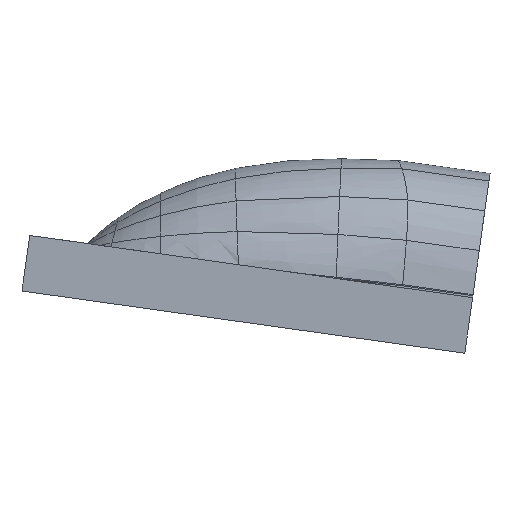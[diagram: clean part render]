
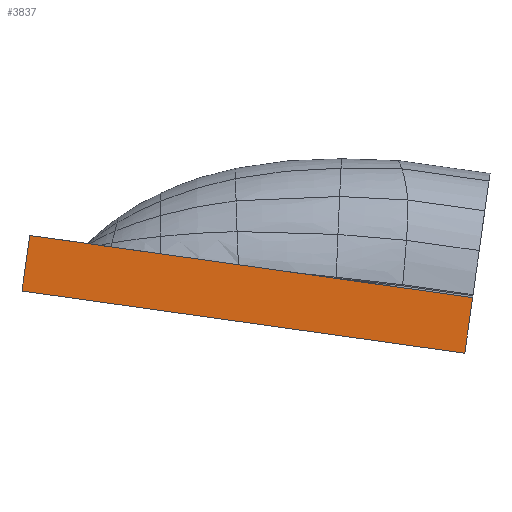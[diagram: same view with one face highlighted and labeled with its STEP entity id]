
A CAD part, left-side view. The second image highlights one B-rep face of the part: STEP entity #3837.
In plain terms, the highlighted planar face has unit normal (-1, 0, 0).
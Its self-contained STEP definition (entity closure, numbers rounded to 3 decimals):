
#216 = ORIENTED_EDGE ( 'NONE', *, *, #4666, .T. ) ;
#288 = CARTESIAN_POINT ( 'NONE',  ( -20.584, 18.836, -23.119 ) ) ;
#335 = CARTESIAN_POINT ( 'NONE',  ( -20.584, -1.336, -25.948 ) ) ;
#353 = CARTESIAN_POINT ( 'NONE',  ( -20.584, 20.87, -22.834 ) ) ;
#355 = VERTEX_POINT ( 'NONE', #4368 ) ;
#395 = CARTESIAN_POINT ( 'NONE',  ( -20.584, -11.225, -27.335 ) ) ;
#438 = VECTOR ( 'NONE', #1849, 1000. ) ;
#610 = EDGE_CURVE ( 'NONE', #4919, #2639, #2184, .T. ) ;
#712 = CARTESIAN_POINT ( 'NONE',  ( -20.584, 36.091, -20.699 ) ) ;
#763 = CARTESIAN_POINT ( 'NONE',  ( -20.584, 16.482, -23.449 ) ) ;
#778 = CARTESIAN_POINT ( 'NONE',  ( -20.584, -0.276, -25.799 ) ) ;
#818 = FACE_OUTER_BOUND ( 'NONE', #1372, .T. ) ;
#843 = CARTESIAN_POINT ( 'NONE',  ( -20.584, 34.083, -20.98 ) ) ;
#862 = CARTESIAN_POINT ( 'NONE',  ( -20.584, 8.926, -24.509 ) ) ;
#921 = CARTESIAN_POINT ( 'NONE',  ( -20.584, 15.306, -23.614 ) ) ;
#929 = CARTESIAN_POINT ( 'NONE',  ( -20.584, -10.391, -33.277 ) ) ;
#977 = LINE ( 'NONE', #929, #438 ) ;
#1106 = VECTOR ( 'NONE', #3293, 1000. ) ;
#1198 = CARTESIAN_POINT ( 'NONE',  ( -20.584, 30.067, -21.544 ) ) ;
#1300 = CARTESIAN_POINT ( 'NONE',  ( -20.584, 36.924, -26.64 ) ) ;
#1354 = CARTESIAN_POINT ( 'NONE',  ( -20.584, -7.074, -26.753 ) ) ;
#1372 = EDGE_LOOP ( 'NONE', ( #3326, #2331, #3690, #2835, #1730, #5160, #3417, #216 ) ) ;
#1381 = CARTESIAN_POINT ( 'NONE',  ( -20.584, -10.444, -27.225 ) ) ;
#1455 = CARTESIAN_POINT ( 'NONE',  ( -20.584, 1.845, -25.502 ) ) ;
#1644 = EDGE_CURVE ( 'NONE', #355, #4919, #4724, .T. ) ;
#1718 = VERTEX_POINT ( 'NONE', #2202 ) ;
#1730 = ORIENTED_EDGE ( 'NONE', *, *, #1644, .F. ) ;
#1752 = CARTESIAN_POINT ( 'NONE',  ( -20.584, 10.444, -24.296 ) ) ;
#1813 = CARTESIAN_POINT ( 'NONE',  ( -20.584, 11.254, -24.182 ) ) ;
#1824 = CARTESIAN_POINT ( 'NONE',  ( -20.584, -11.225, -27.335 ) ) ;
#1849 = DIRECTION ( 'NONE',  ( 0., -0.139, 0.99 ) ) ;
#2037 = VECTOR ( 'NONE', #2921, 1000. ) ;
#2100 = CARTESIAN_POINT ( 'NONE',  ( -20.584, 22.904, -22.548 ) ) ;
#2110 = CARTESIAN_POINT ( 'NONE',  ( -20.584, 25.292, -22.213 ) ) ;
#2144 = CARTESIAN_POINT ( 'NONE',  ( -20.584, -2.397, -26.097 ) ) ;
#2184 = B_SPLINE_CURVE_WITH_KNOTS ( 'NONE', 3,
 ( #4418, #5788, #2979, #353, #4801, #4351, #288, #3011, #763, #2570 ),
 .UNSPECIFIED., .F., .F.,
 ( 4, 3, 3, 4 ),
 ( 0., 0.002, 0.004, 0.008 ),
 .UNSPECIFIED. ) ;
#2202 = CARTESIAN_POINT ( 'NONE',  ( -20.584, -10.391, -33.277 ) ) ;
#2248 = CARTESIAN_POINT ( 'NONE',  ( -20.584, 7.409, -24.722 ) ) ;
#2274 = CARTESIAN_POINT ( 'NONE',  ( -20.584, 14.495, -23.728 ) ) ;
#2287 = CARTESIAN_POINT ( 'NONE',  ( -20.584, -9.663, -27.116 ) ) ;
#2331 = ORIENTED_EDGE ( 'NONE', *, *, #3504, .F. ) ;
#2386 = EDGE_CURVE ( 'NONE', #3078, #5203, #4604, .T. ) ;
#2550 = CARTESIAN_POINT ( 'NONE',  ( -20.584, 27.679, -21.879 ) ) ;
#2570 = CARTESIAN_POINT ( 'NONE',  ( -20.584, 15.306, -23.614 ) ) ;
#2584 = CARTESIAN_POINT ( 'NONE',  ( -20.584, 5.891, -24.935 ) ) ;
#2639 = VERTEX_POINT ( 'NONE', #5728 ) ;
#2692 = CARTESIAN_POINT ( 'NONE',  ( -20.584, 12.875, -23.955 ) ) ;
#2720 = CARTESIAN_POINT ( 'NONE',  ( -20.584, 12.064, -24.069 ) ) ;
#2762 = CARTESIAN_POINT ( 'NONE',  ( -20.584, 5.891, -24.935 ) ) ;
#2835 = ORIENTED_EDGE ( 'NONE', *, *, #610, .F. ) ;
#2919 = LINE ( 'NONE', #4235, #1106 ) ;
#2921 = DIRECTION ( 'NONE',  ( 0., 0.99, 0.139 ) ) ;
#2958 = B_SPLINE_CURVE_WITH_KNOTS ( 'NONE', 3,
 ( #2584, #3694, #5523, #4882, #1455, #3237, #778, #335, #2144, #3056 ),
 .UNSPECIFIED., .F., .F.,
 ( 4, 3, 3, 4 ),
 ( 0., 0.003, 0.006, 0.009 ),
 .UNSPECIFIED. ) ;
#2979 = CARTESIAN_POINT ( 'NONE',  ( -20.584, 21.548, -22.738 ) ) ;
#2997 = DIRECTION ( 'NONE',  ( 1., 0., 0. ) ) ;
#3011 = CARTESIAN_POINT ( 'NONE',  ( -20.584, 17.659, -23.284 ) ) ;
#3056 = CARTESIAN_POINT ( 'NONE',  ( -20.584, -3.457, -26.245 ) ) ;
#3078 = VERTEX_POINT ( 'NONE', #4409 ) ;
#3237 = CARTESIAN_POINT ( 'NONE',  ( -20.584, 0.785, -25.651 ) ) ;
#3293 = DIRECTION ( 'NONE',  ( 0., -0.139, 0.99 ) ) ;
#3295 = LINE ( 'NONE', #5581, #2037 ) ;
#3326 = ORIENTED_EDGE ( 'NONE', *, *, #2386, .F. ) ;
#3417 = ORIENTED_EDGE ( 'NONE', *, *, #4793, .F. ) ;
#3504 = EDGE_CURVE ( 'NONE', #4356, #3078, #2958, .T. ) ;
#3583 = EDGE_CURVE ( 'NONE', #4308, #355, #2919, .T. ) ;
#3599 = CARTESIAN_POINT ( 'NONE',  ( -20.584, 5.891, -24.935 ) ) ;
#3690 = ORIENTED_EDGE ( 'NONE', *, *, #3692, .F. ) ;
#3692 = EDGE_CURVE ( 'NONE', #2639, #4356, #5313, .T. ) ;
#3694 = CARTESIAN_POINT ( 'NONE',  ( -20.584, 4.896, -25.074 ) ) ;
#3837 = ADVANCED_FACE ( 'NONE', ( #818 ), #5233, .F. ) ;
#4038 = CARTESIAN_POINT ( 'NONE',  ( -20.584, -8.883, -27.006 ) ) ;
#4097 = CARTESIAN_POINT ( 'NONE',  ( -20.584, -5.266, -26.499 ) ) ;
#4125 = CARTESIAN_POINT ( 'NONE',  ( -20.584, -3.457, -26.245 ) ) ;
#4235 = CARTESIAN_POINT ( 'NONE',  ( -20.584, 36.924, -26.64 ) ) ;
#4308 = VERTEX_POINT ( 'NONE', #1300 ) ;
#4351 = CARTESIAN_POINT ( 'NONE',  ( -20.584, 19.514, -23.024 ) ) ;
#4356 = VERTEX_POINT ( 'NONE', #2762 ) ;
#4368 = CARTESIAN_POINT ( 'NONE',  ( -20.584, 36.091, -20.699 ) ) ;
#4409 = CARTESIAN_POINT ( 'NONE',  ( -20.584, -3.457, -26.245 ) ) ;
#4418 = CARTESIAN_POINT ( 'NONE',  ( -20.584, 22.904, -22.548 ) ) ;
#4420 = AXIS2_PLACEMENT_3D ( 'NONE', #4916, #2997, #5363 ) ;
#4604 = B_SPLINE_CURVE_WITH_KNOTS ( 'NONE', 3,
 ( #4125, #4097, #1354, #4038, #2287, #1381, #1824 ),
 .UNSPECIFIED., .F., .F.,
 ( 4, 3, 4 ),
 ( 0., 0.005, 0.008 ),
 .UNSPECIFIED. ) ;
#4666 = EDGE_CURVE ( 'NONE', #1718, #5203, #977, .T. ) ;
#4724 = B_SPLINE_CURVE_WITH_KNOTS ( 'NONE', 3,
 ( #712, #843, #5257, #1198, #2550, #2110, #5292 ),
 .UNSPECIFIED., .F., .F.,
 ( 4, 3, 4 ),
 ( 0.001, 0.007, 0.014 ),
 .UNSPECIFIED. ) ;
#4793 = EDGE_CURVE ( 'NONE', #1718, #4308, #3295, .T. ) ;
#4801 = CARTESIAN_POINT ( 'NONE',  ( -20.584, 20.192, -22.929 ) ) ;
#4882 = CARTESIAN_POINT ( 'NONE',  ( -20.584, 2.906, -25.353 ) ) ;
#4916 = CARTESIAN_POINT ( 'NONE',  ( -20.584, 36.924, -26.64 ) ) ;
#4919 = VERTEX_POINT ( 'NONE', #2100 ) ;
#5160 = ORIENTED_EDGE ( 'NONE', *, *, #3583, .F. ) ;
#5203 = VERTEX_POINT ( 'NONE', #395 ) ;
#5233 = PLANE ( 'NONE',  #4420 ) ;
#5257 = CARTESIAN_POINT ( 'NONE',  ( -20.584, 32.075, -21.262 ) ) ;
#5292 = CARTESIAN_POINT ( 'NONE',  ( -20.584, 22.904, -22.548 ) ) ;
#5313 = B_SPLINE_CURVE_WITH_KNOTS ( 'NONE', 3,
 ( #921, #2274, #5410, #2692, #2720, #1813, #1752, #862, #2248, #3599 ),
 .UNSPECIFIED., .F., .F.,
 ( 4, 3, 3, 4 ),
 ( 0., 0.002, 0.005, 0.01 ),
 .UNSPECIFIED. ) ;
#5363 = DIRECTION ( 'NONE',  ( 0., 0., -1. ) ) ;
#5410 = CARTESIAN_POINT ( 'NONE',  ( -20.584, 13.685, -23.841 ) ) ;
#5523 = CARTESIAN_POINT ( 'NONE',  ( -20.584, 3.901, -25.214 ) ) ;
#5581 = CARTESIAN_POINT ( 'NONE',  ( -20.584, 36.924, -26.64 ) ) ;
#5728 = CARTESIAN_POINT ( 'NONE',  ( -20.584, 15.306, -23.614 ) ) ;
#5788 = CARTESIAN_POINT ( 'NONE',  ( -20.584, 22.226, -22.643 ) ) ;
